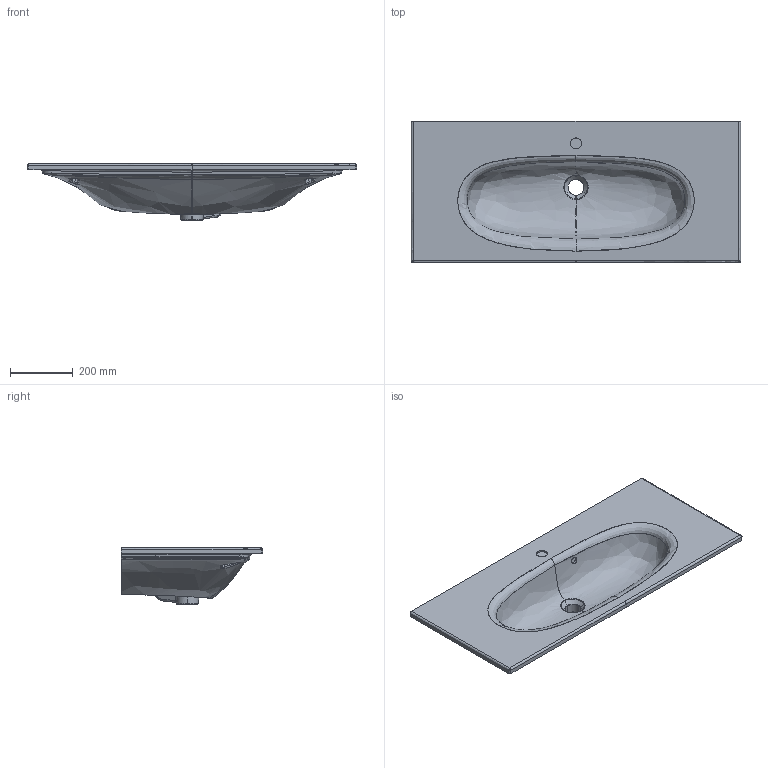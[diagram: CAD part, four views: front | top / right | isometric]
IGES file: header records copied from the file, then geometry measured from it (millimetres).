
Start section: START RECORD GO HERE.
Global section: file name: 7103.igs; native system: DASSAULT SYSTEMES CATIA V5 R19 - www.3ds.com; preprocessor: CATIA Version 5 Release 19 SP 5 ; author: gioge; organization: LAPTOP-G94B6G74; date: 20201002.173025; units: millimetre
Bounding box: 1050 x 450 x 180.16 mm (x, y, z)
Surface area: 1380409.2 mm2 (no closed solid volume)
Topology: 0 solids, 0 shells, 396 faces, 1862 edges, 1843 vertices
Faces by surface type: bspline 240, revolution 119, plane 37
